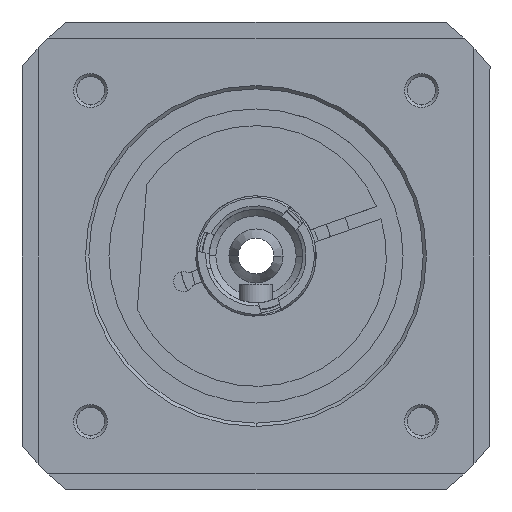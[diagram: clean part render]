
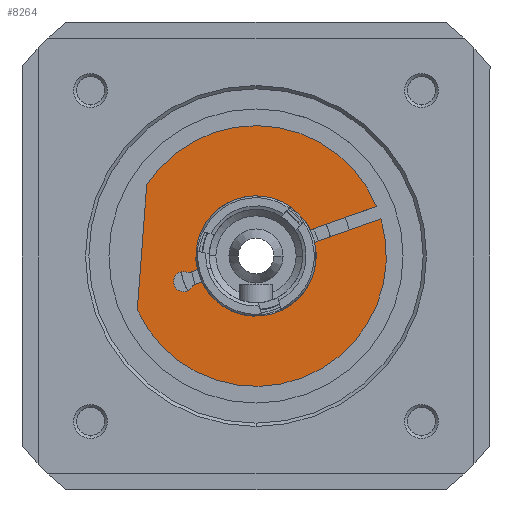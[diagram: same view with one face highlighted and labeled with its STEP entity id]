
A CAD part, front view. The second image highlights one B-rep face of the part: STEP entity #8264.
In plain terms, the highlighted planar face has unit normal (0, -1, 0).
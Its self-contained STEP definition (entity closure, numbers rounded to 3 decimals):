
#4 = CARTESIAN_POINT ( 'NONE',  ( -10.844, 11.2, -3.83 ) ) ;
#21 = CARTESIAN_POINT ( 'NONE',  ( 0.333, 11.2, -0.943 ) ) ;
#54 = CARTESIAN_POINT ( 'NONE',  ( 0., 11.2, 0. ) ) ;
#256 = CARTESIAN_POINT ( 'NONE',  ( -17.761, 11.2, -8.049 ) ) ;
#405 = CARTESIAN_POINT ( 'NONE',  ( 18.696, 11.2, 5.543 ) ) ;
#591 = DIRECTION ( 'NONE',  ( -0.333, 0., 0.943 ) ) ;
#675 = VERTEX_POINT ( 'NONE', #3332 ) ;
#710 = DIRECTION ( 'NONE',  ( 0., 1., 0. ) ) ;
#730 = DIRECTION ( 'NONE',  ( -0.333, 0., 0.943 ) ) ;
#760 = CARTESIAN_POINT ( 'NONE',  ( -17.051, 11.2, 1.296 ) ) ;
#984 = VERTEX_POINT ( 'NONE', #256 ) ;
#1072 = VERTEX_POINT ( 'NONE', #2776 ) ;
#1095 = AXIS2_PLACEMENT_3D ( 'NONE', #54, #4669, #730 ) ;
#1106 = EDGE_CURVE ( 'NONE', #7653, #4389, #4349, .T. ) ;
#1121 = EDGE_CURVE ( 'NONE', #7247, #984, #8556, .T. ) ;
#1351 = PLANE ( 'NONE',  #1095 ) ;
#1716 = ORIENTED_EDGE ( 'NONE', *, *, #2747, .T. ) ;
#1863 = AXIS2_PLACEMENT_3D ( 'NONE', #4648, #710, #5331 ) ;
#1896 = VECTOR ( 'NONE', #7237, 1000. ) ;
#1926 = CARTESIAN_POINT ( 'NONE',  ( 0., 11.2, 0. ) ) ;
#2050 = EDGE_CURVE ( 'NONE', #675, #7371, #5050, .T. ) ;
#2110 = LINE ( 'NONE', #3307, #1896 ) ;
#2137 = VERTEX_POINT ( 'NONE', #3665 ) ;
#2146 = ORIENTED_EDGE ( 'NONE', *, *, #5316, .F. ) ;
#2178 = EDGE_CURVE ( 'NONE', #1072, #2137, #3179, .T. ) ;
#2458 = CIRCLE ( 'NONE', #2970, 9. ) ;
#2488 = ORIENTED_EDGE ( 'NONE', *, *, #3971, .T. ) ;
#2490 = EDGE_CURVE ( 'NONE', #7259, #5515, #5341, .T. ) ;
#2518 = CIRCLE ( 'NONE', #7242, 1.5 ) ;
#2565 = DIRECTION ( 'NONE',  ( -0.333, 0., 0.943 ) ) ;
#2620 = FACE_OUTER_BOUND ( 'NONE', #8144, .T. ) ;
#2729 = ORIENTED_EDGE ( 'NONE', *, *, #8246, .F. ) ;
#2747 = EDGE_CURVE ( 'NONE', #4389, #6116, #5054, .T. ) ;
#2751 = DIRECTION ( 'NONE',  ( -0.076, 0., -0.997 ) ) ;
#2776 = CARTESIAN_POINT ( 'NONE',  ( -16.34, 11.2, 10.641 ) ) ;
#2834 = ORIENTED_EDGE ( 'NONE', *, *, #6410, .F. ) ;
#2970 = AXIS2_PLACEMENT_3D ( 'NONE', #7791, #3867, #8448 ) ;
#3179 = CIRCLE ( 'NONE', #5639, 19.5 ) ;
#3206 = CARTESIAN_POINT ( 'NONE',  ( -10.344, 11.2, -5.244 ) ) ;
#3307 = CARTESIAN_POINT ( 'NONE',  ( 0.333, 11.2, -0.943 ) ) ;
#3330 = DIRECTION ( 'NONE',  ( 0., 1., 0. ) ) ;
#3332 = CARTESIAN_POINT ( 'NONE',  ( -9.456, 11.2, -4.4 ) ) ;
#3419 = DIRECTION ( 'NONE',  ( -0.333, 0., 0.943 ) ) ;
#3540 = VERTEX_POINT ( 'NONE', #3836 ) ;
#3566 = VERTEX_POINT ( 'NONE', #7146 ) ;
#3665 = CARTESIAN_POINT ( 'NONE',  ( 18.03, 11.2, 7.428 ) ) ;
#3816 = CARTESIAN_POINT ( 'NONE',  ( -8.767, 11.2, -2.036 ) ) ;
#3825 = EDGE_CURVE ( 'NONE', #7371, #7653, #2518, .T. ) ;
#3836 = CARTESIAN_POINT ( 'NONE',  ( 8.767, 11.2, 2.036 ) ) ;
#3867 = DIRECTION ( 'NONE',  ( 0., 1., 0. ) ) ;
#3971 = EDGE_CURVE ( 'NONE', #1072, #984, #8373, .T. ) ;
#3992 = DIRECTION ( 'NONE',  ( 0.943, 0., 0.333 ) ) ;
#4184 = ORIENTED_EDGE ( 'NONE', *, *, #6162, .T. ) ;
#4273 = AXIS2_PLACEMENT_3D ( 'NONE', #4, #3330, #3419 ) ;
#4316 = AXIS2_PLACEMENT_3D ( 'NONE', #1926, #6515, #2565 ) ;
#4349 = CIRCLE ( 'NONE', #4273, 1.5 ) ;
#4383 = LINE ( 'NONE', #21, #6133 ) ;
#4389 = VERTEX_POINT ( 'NONE', #4528 ) ;
#4484 = DIRECTION ( 'NONE',  ( -0.333, 0., 0.943 ) ) ;
#4519 = DIRECTION ( 'NONE',  ( 0., 1., 0. ) ) ;
#4528 = CARTESIAN_POINT ( 'NONE',  ( -10.122, 11.2, -2.515 ) ) ;
#4541 = DIRECTION ( 'NONE',  ( 0., 1., 0. ) ) ;
#4648 = CARTESIAN_POINT ( 'NONE',  ( 0., 11.2, 0. ) ) ;
#4669 = DIRECTION ( 'NONE',  ( 0., 1., 0. ) ) ;
#4730 = CARTESIAN_POINT ( 'NONE',  ( 0., 11.2, 0. ) ) ;
#4772 = CARTESIAN_POINT ( 'NONE',  ( 0., 11.2, 0. ) ) ;
#4783 = DIRECTION ( 'NONE',  ( 0., 1., 0. ) ) ;
#4808 = DIRECTION ( 'NONE',  ( 0., 1., 0. ) ) ;
#4911 = VECTOR ( 'NONE', #2751, 1000. ) ;
#4919 = ORIENTED_EDGE ( 'NONE', *, *, #3825, .T. ) ;
#4992 = DIRECTION ( 'NONE',  ( -0.333, 0., 0.943 ) ) ;
#5050 = CIRCLE ( 'NONE', #5302, 1.5 ) ;
#5054 = LINE ( 'NONE', #5546, #6580 ) ;
#5256 = EDGE_CURVE ( 'NONE', #3540, #3566, #2458, .T. ) ;
#5302 = AXIS2_PLACEMENT_3D ( 'NONE', #7604, #4519, #4484 ) ;
#5316 = EDGE_CURVE ( 'NONE', #2137, #5515, #7714, .T. ) ;
#5331 = DIRECTION ( 'NONE',  ( -0.333, 0., 0.943 ) ) ;
#5341 = CIRCLE ( 'NONE', #1863, 9. ) ;
#5361 = DIRECTION ( 'NONE',  ( -0.333, 0., 0.943 ) ) ;
#5430 = AXIS2_PLACEMENT_3D ( 'NONE', #4772, #4808, #5361 ) ;
#5515 = VERTEX_POINT ( 'NONE', #7423 ) ;
#5546 = CARTESIAN_POINT ( 'NONE',  ( -0.333, 11.2, 0.943 ) ) ;
#5639 = AXIS2_PLACEMENT_3D ( 'NONE', #4730, #4783, #4992 ) ;
#5654 = CARTESIAN_POINT ( 'NONE',  ( -2.997, 11.2, 8.486 ) ) ;
#5888 = ORIENTED_EDGE ( 'NONE', *, *, #2490, .T. ) ;
#6114 = DIRECTION ( 'NONE',  ( 0.943, 0., 0.333 ) ) ;
#6116 = VERTEX_POINT ( 'NONE', #3816 ) ;
#6133 = VECTOR ( 'NONE', #3992, 1000. ) ;
#6150 = ORIENTED_EDGE ( 'NONE', *, *, #1106, .T. ) ;
#6162 = EDGE_CURVE ( 'NONE', #6116, #7259, #8468, .T. ) ;
#6219 = ORIENTED_EDGE ( 'NONE', *, *, #5256, .T. ) ;
#6337 = ORIENTED_EDGE ( 'NONE', *, *, #2050, .T. ) ;
#6410 = EDGE_CURVE ( 'NONE', #3540, #7247, #2110, .T. ) ;
#6515 = DIRECTION ( 'NONE',  ( 0., 1., 0. ) ) ;
#6580 = VECTOR ( 'NONE', #6114, 1000. ) ;
#6691 = VECTOR ( 'NONE', #8518, 1000. ) ;
#7146 = CARTESIAN_POINT ( 'NONE',  ( -8.101, 11.2, -3.922 ) ) ;
#7237 = DIRECTION ( 'NONE',  ( 0.943, 0., 0.333 ) ) ;
#7242 = AXIS2_PLACEMENT_3D ( 'NONE', #8461, #4541, #591 ) ;
#7247 = VERTEX_POINT ( 'NONE', #405 ) ;
#7259 = VERTEX_POINT ( 'NONE', #5654 ) ;
#7371 = VERTEX_POINT ( 'NONE', #3206 ) ;
#7423 = CARTESIAN_POINT ( 'NONE',  ( 8.101, 11.2, 3.922 ) ) ;
#7454 = ORIENTED_EDGE ( 'NONE', *, *, #2178, .F. ) ;
#7604 = CARTESIAN_POINT ( 'NONE',  ( -10.844, 11.2, -3.83 ) ) ;
#7653 = VERTEX_POINT ( 'NONE', #8371 ) ;
#7714 = LINE ( 'NONE', #7843, #6691 ) ;
#7791 = CARTESIAN_POINT ( 'NONE',  ( 0., 11.2, 0. ) ) ;
#7843 = CARTESIAN_POINT ( 'NONE',  ( -0.333, 11.2, 0.943 ) ) ;
#8144 = EDGE_LOOP ( 'NONE', ( #7454, #2488, #8252, #2834, #6219, #2729, #6337, #4919, #6150, #1716, #4184, #5888, #2146 ) ) ;
#8246 = EDGE_CURVE ( 'NONE', #675, #3566, #4383, .T. ) ;
#8252 = ORIENTED_EDGE ( 'NONE', *, *, #1121, .F. ) ;
#8264 = ADVANCED_FACE ( 'NONE', ( #2620 ), #1351, .F. ) ;
#8371 = CARTESIAN_POINT ( 'NONE',  ( -11.343, 11.2, -2.415 ) ) ;
#8373 = LINE ( 'NONE', #760, #4911 ) ;
#8448 = DIRECTION ( 'NONE',  ( -0.333, 0., 0.943 ) ) ;
#8461 = CARTESIAN_POINT ( 'NONE',  ( -10.844, 11.2, -3.83 ) ) ;
#8468 = CIRCLE ( 'NONE', #4316, 9. ) ;
#8518 = DIRECTION ( 'NONE',  ( -0.943, 0., -0.333 ) ) ;
#8556 = CIRCLE ( 'NONE', #5430, 19.5 ) ;
